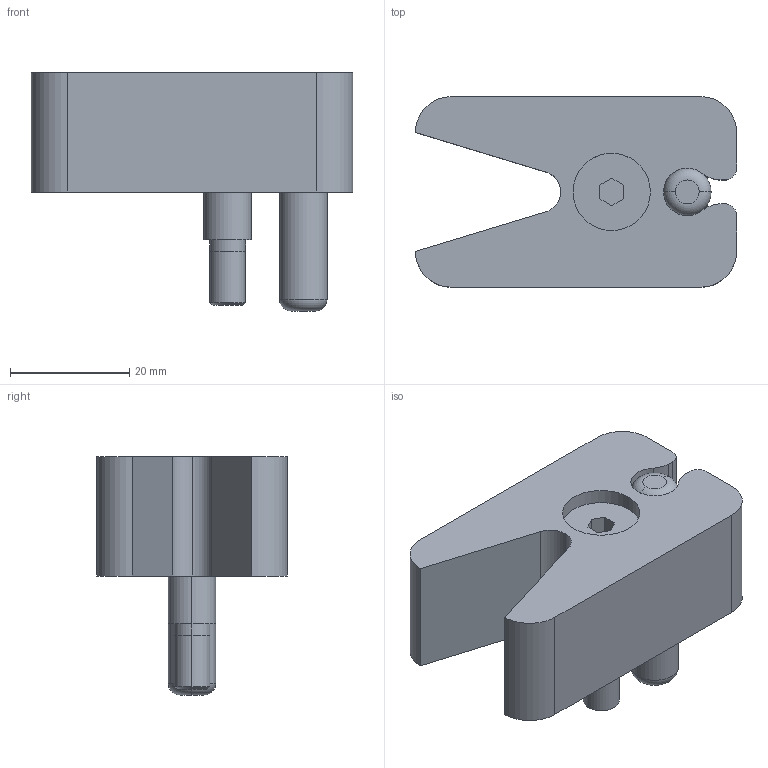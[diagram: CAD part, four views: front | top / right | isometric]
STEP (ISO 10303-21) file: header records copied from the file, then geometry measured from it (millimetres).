
FILE_DESCRIPTION (( 'STEP AP214' ), '1' );
FILE_NAME ('MRT20M.STEP', '2022-01-31T12:32:37', ( '' ), ( '' ), 'SwSTEP 2.0', 'SolidWorks 2018', '' );
FILE_SCHEMA (( 'AUTOMOTIVE_DESIGN' ));
Length unit declared in the file: millimetre
Products named in the file (4): PAS-8x40; BruyRubio_TPM__6_x_20; MRT20M
Assembly tree (3 placements, depth 2):
  MRT20M
    MRT20M
    BruyRubio_TPM__6_x_20
    PAS-8x40
Bounding box: 54 x 32 x 40 mm (x, y, z)
Volume: 28728.3 mm3; surface area: 10180.1 mm2
Topology: 4 solids, 4 shells, 62 faces, 142 edges, 92 vertices
Faces by surface type: cylinder 30, plane 26, torus 4, cone 2
Entity records: 1941 total; most frequent: DIRECTION 346, CARTESIAN_POINT 302, ORIENTED_EDGE 284, EDGE_CURVE 142, AXIS2_PLACEMENT_3D 136, VERTEX_POINT 92, VECTOR 74, LINE 74
